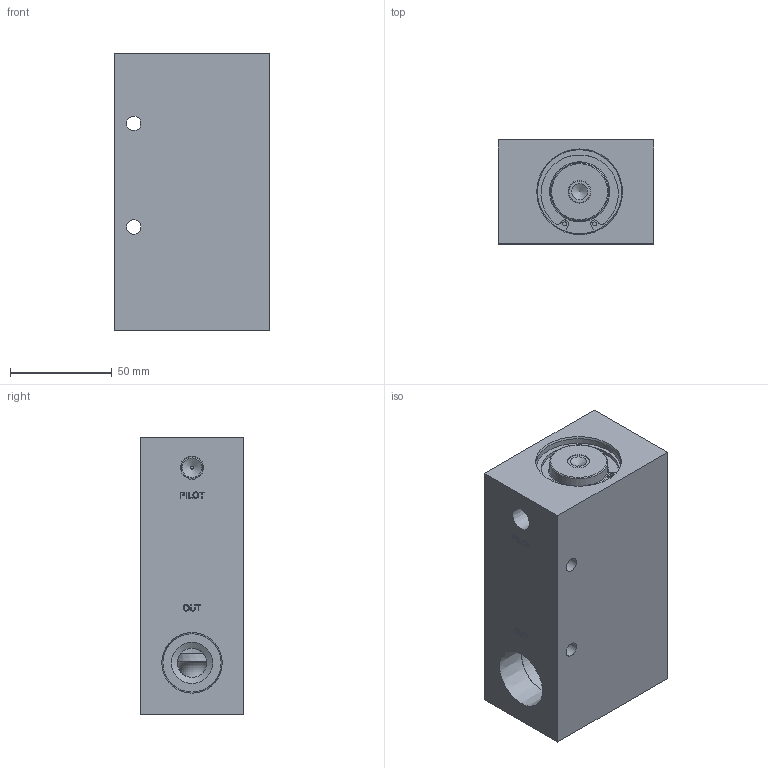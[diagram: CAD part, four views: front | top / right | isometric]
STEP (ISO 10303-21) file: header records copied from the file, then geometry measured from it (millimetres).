
FILE_DESCRIPTION(/* description */ (''),/* implementation_level */ '2;1');
FILE_NAME(/* name */ 'L:\ALADCO\Advertising\3D Content\Valves\Step Files - 2014-11-19 thru Present\31010X.stp',/* time_stamp */ '2014-11-19T14:46:02-06:00',/* author */ ('dmatz'),/* organization */ ('Aladdin Eng. & Manf. Inc.'),/* preprocessor_version */ 'ST-DEVELOPER v15.2',/* originating_system */ 'Autodesk Inventor 2014',/* authorisation */ '0 in^3');
FILE_SCHEMA (('AUTOMOTIVE_DESIGN { 1 0 10303 214 3 1 1 }'));
Length unit declared in the file: inch
Products named in the file (10): 301235; 311050; 1.312-1.25; 311058; 311047; 311020; 1.625-1.562; 311057; 311066; 310101
Bounding box: 76.2 x 50.8 x 136.01 mm (x, y, z)
Volume: 411320.2 mm3; surface area: 73480.8 mm2
Topology: 7 solids, 7 shells, 237 faces, 536 edges, 352 vertices
Faces by surface type: plane 117, cylinder 55, bspline 26, cone 21, torus 18
Full cylindrical faces by diameter (mm): 1.499 x1, 1.93 x4, 3.302 x1, 6.629 x1, 6.858 x1, 7.112 x2, 7.938 x1, 10.719 x1, 11.049 x2, 11.1 x2, 12.7 x1, 14.249 x1, 14.287 x2, 17.501 x1, 18.034 x1, 19.05 x2, 20.015 x1, 28.448 x1, 28.575 x2, 29.21 x1, 31.75 x1, 33.274 x2, 33.325 x3, 35.458 x1, 37.16 x1, 38.1 x1, 41.224 x2, 41.275 x2, 43.815 x1
Entity records: 6897 total; most frequent: CARTESIAN_POINT 1682, DIRECTION 976, ORIENTED_EDGE 858, EDGE_CURVE 429, EDGE_LOOP 382, AXIS2_PLACEMENT_3D 376, VERTEX_POINT 327, ADVANCED_FACE 237
